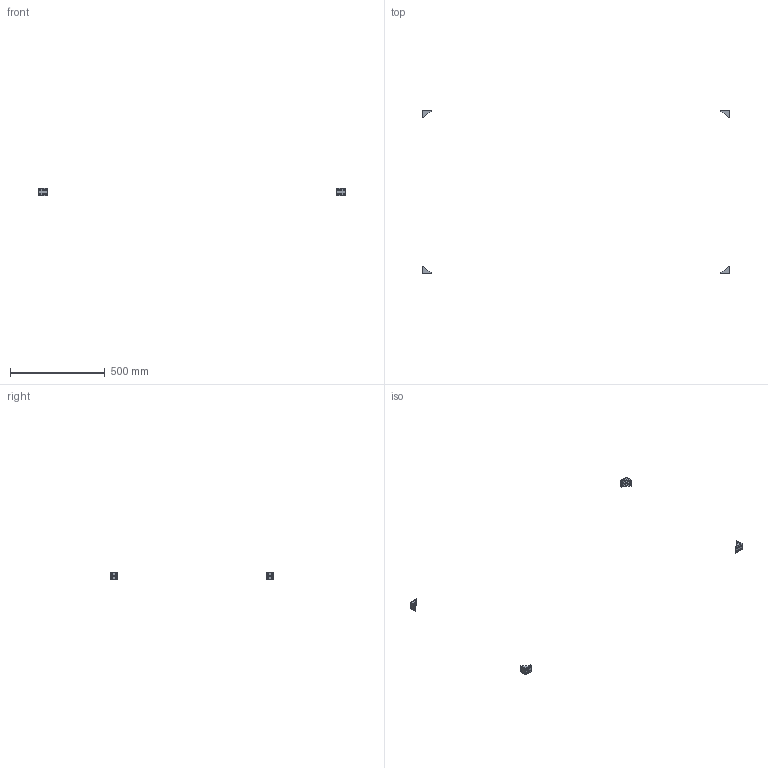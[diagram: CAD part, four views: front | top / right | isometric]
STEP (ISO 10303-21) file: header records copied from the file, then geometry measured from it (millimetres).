
FILE_DESCRIPTION(/* description */ (''),/* implementation_level */ '2;1');
FILE_NAME(/* name */ '2.frame-gantry#2.2#HBLFSDW5',/* time_stamp */ '2014-12-01T20:11:38+01:00',/* author */ (''),/* organization */ (''),/* preprocessor_version */ 'ST-DEVELOPER v14',/* originating_system */ '',/* authorisation */ '');
FILE_SCHEMA (('AUTOMOTIVE_DESIGN'));
Length unit declared in the file: millimetre
Products named in the file (2): Document; angle bracket, heavy, double
Assembly tree (2 placements, depth 2):
  Document
    angle bracket, heavy, double  x2
Bounding box: 1620 x 861.6 x 40 mm (x, y, z)
Volume: 73113.5 mm3; surface area: 40827.4 mm2
Topology: 4 solids, 4 shells, 204 faces, 516 edges, 344 vertices
Faces by surface type: plane 136, bspline 68
Entity records: 22608 total; most frequent: CARTESIAN_POINT 17249, B_SPLINE_CURVE_WITH_KNOTS 1017, ORIENTED_EDGE 774, PCURVE 774, DEFINITIONAL_REPRESENTATION 774, SURFACE_CURVE 387, EDGE_CURVE 387, VERTEX_POINT 258
